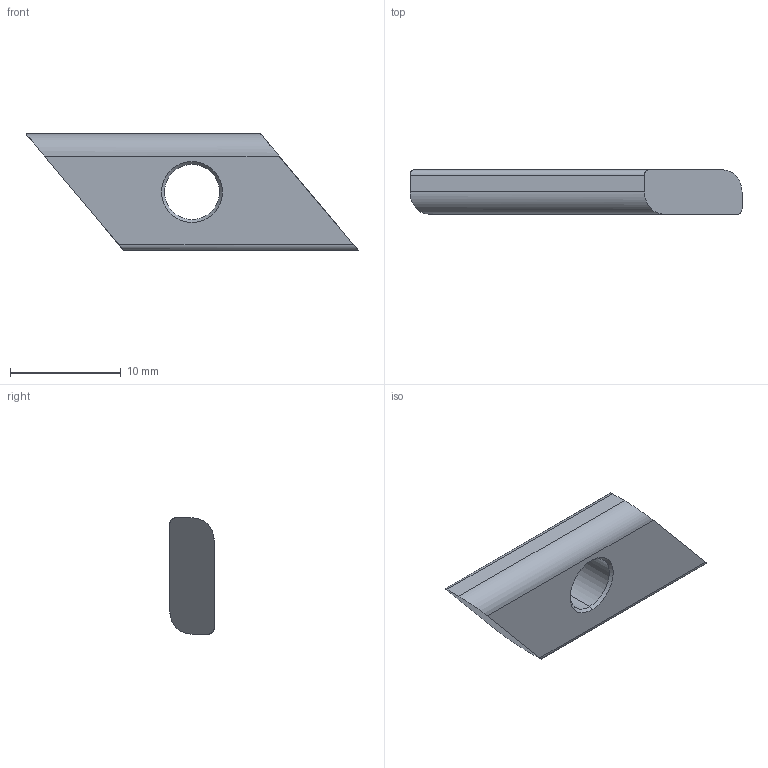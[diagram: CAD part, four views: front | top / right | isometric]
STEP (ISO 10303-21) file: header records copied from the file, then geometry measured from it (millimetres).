
FILE_DESCRIPTION (( 'STEP AP203' ), '1' );
FILE_NAME ('5195.STEP', '2017-04-14T02:24:22', ( '' ), ( '' ), 'SwSTEP 2.0', 'SolidWorks 2014', '' );
FILE_SCHEMA (( 'CONFIG_CONTROL_DESIGN' ));
Length unit declared in the file: millimetre
Products named in the file (1): 5195
Bounding box: 30 x 4 x 10.5 mm (x, y, z)
Volume: 771.8 mm3; surface area: 693 mm2
Topology: 1 solids, 1 shells, 16 faces, 38 edges, 24 vertices
Faces by surface type: cylinder 6, plane 6, cone 4
Entity records: 539 total; most frequent: CARTESIAN_POINT 103, ORIENTED_EDGE 76, DIRECTION 72, EDGE_CURVE 38, AXIS2_PLACEMENT_3D 25, VERTEX_POINT 24, LINE 22, VECTOR 22
